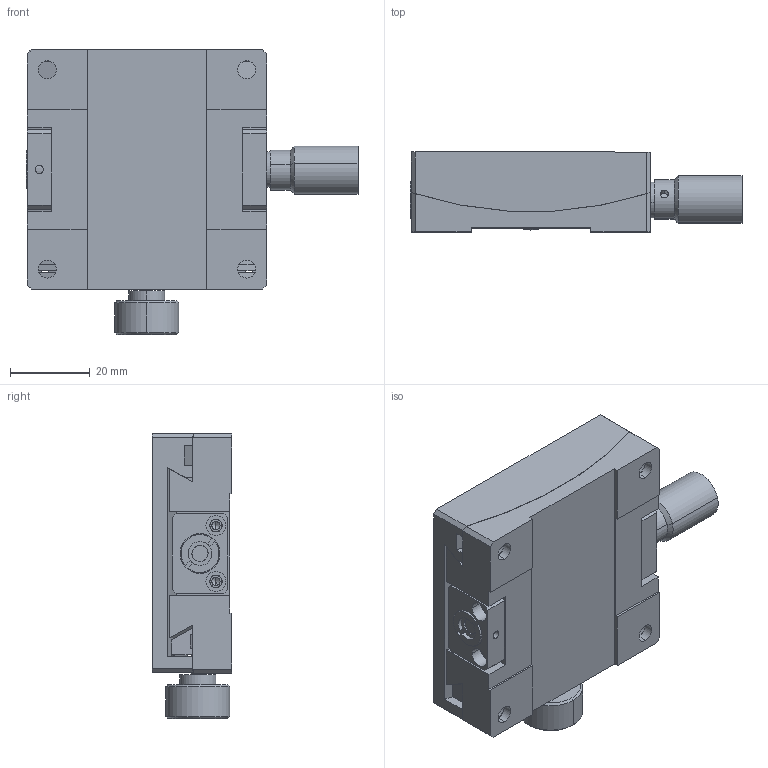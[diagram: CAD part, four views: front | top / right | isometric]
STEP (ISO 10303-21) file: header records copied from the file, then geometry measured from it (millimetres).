
FILE_DESCRIPTION (( 'STEP AP214' ), '1' );
FILE_NAME ('T1-618-D4.STEP', '2015-02-06T02:42:32', ( '' ), ( '' ), 'SwSTEP 2.0', 'SolidWorks 2012', '' );
FILE_SCHEMA (( 'AUTOMOTIVE_DESIGN' ));
Length unit declared in the file: millimetre
Products named in the file (12): CLAMP BOLT-1; DOVETAIL BLOCK(T1-618-D4); CARRIAGE PLATE(T1-618-D4); NOB; WASHER; TANTION 褻瞰 BOLT; BUSH; WORM WHEEL; END BOLCK; FRONT BOLCK; BASE PLATE(T1-618-D4); T1-618-D4
Assembly tree (13 placements, depth 2):
  T1-618-D4
    BASE PLATE(T1-618-D4)
    FRONT BOLCK
    END BOLCK
    WORM WHEEL
    BUSH  x2
    TANTION 褻瞰 BOLT
    WASHER  x2
    NOB
    CARRIAGE PLATE(T1-618-D4)
    DOVETAIL BLOCK(T1-618-D4)
    CLAMP BOLT-1
Bounding box: 83.28 x 20.02 x 71.5 mm (x, y, z)
Volume: 65129.3 mm3; surface area: 32258.4 mm2
Topology: 13 solids, 13 shells, 385 faces, 945 edges, 575 vertices
Faces by surface type: cylinder 177, plane 118, cone 86, torus 4
Entity records: 12017 total; most frequent: CARTESIAN_POINT 2784, DIRECTION 1915, ORIENTED_EDGE 1726, EDGE_CURVE 863, AXIS2_PLACEMENT_3D 736, VERTEX_POINT 553, EDGE_LOOP 450, LINE 443
